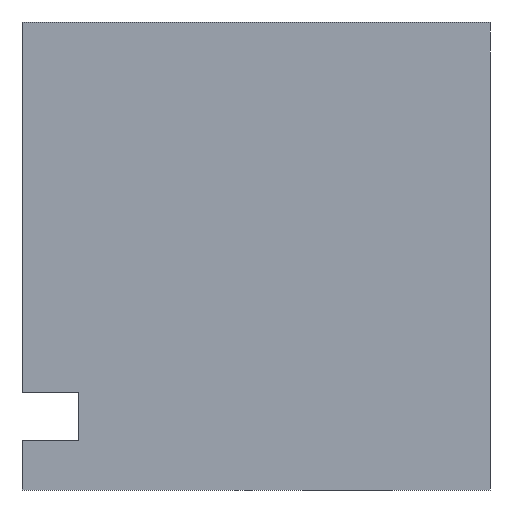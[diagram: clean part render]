
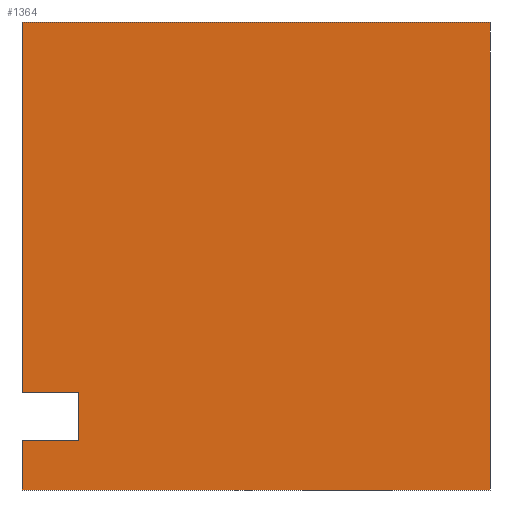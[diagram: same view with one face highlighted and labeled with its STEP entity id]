
A CAD part, front view. The second image highlights one B-rep face of the part: STEP entity #1364.
In plain terms, the highlighted planar face has unit normal (0, -1, 0).
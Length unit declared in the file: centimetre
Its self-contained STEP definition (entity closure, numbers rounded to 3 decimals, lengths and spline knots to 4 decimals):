
#35 = ORIENTED_EDGE ( 'NONE', *, *, #1386, .T. ) ;
#77 = PLANE ( 'NONE',  #588 ) ;
#97 = VECTOR ( 'NONE', #658, 100. ) ;
#109 = EDGE_CURVE ( 'NONE', #1455, #873, #1166, .T. ) ;
#110 = CARTESIAN_POINT ( 'NONE',  ( 1000., 0., 1000. ) ) ;
#143 = EDGE_CURVE ( 'NONE', #1220, #873, #1301, .T. ) ;
#174 = VECTOR ( 'NONE', #710, 100. ) ;
#190 = EDGE_CURVE ( 'NONE', #470, #267, #226, .T. ) ;
#226 = LINE ( 'NONE', #232, #174 ) ;
#232 = CARTESIAN_POINT ( 'NONE',  ( 0., 0., 105.237 ) ) ;
#267 = VERTEX_POINT ( 'NONE', #1204 ) ;
#282 = VECTOR ( 'NONE', #737, 100. ) ;
#287 = CARTESIAN_POINT ( 'NONE',  ( 120.9123, 0., 105.237 ) ) ;
#293 = DIRECTION ( 'NONE',  ( 0., 0., -1. ) ) ;
#328 = ORIENTED_EDGE ( 'NONE', *, *, #109, .F. ) ;
#411 = CARTESIAN_POINT ( 'NONE',  ( 120.9123, 0., 208.0951 ) ) ;
#465 = CARTESIAN_POINT ( 'NONE',  ( 1000., 0., 1000. ) ) ;
#470 = VERTEX_POINT ( 'NONE', #1028 ) ;
#484 = EDGE_LOOP ( 'NONE', ( #35, #603, #1521, #1225, #328, #1340, #1138, #485 ) ) ;
#485 = ORIENTED_EDGE ( 'NONE', *, *, #487, .T. ) ;
#487 = EDGE_CURVE ( 'NONE', #789, #1323, #527, .T. ) ;
#492 = VERTEX_POINT ( 'NONE', #1244 ) ;
#510 = EDGE_CURVE ( 'NONE', #492, #1455, #1001, .T. ) ;
#527 = LINE ( 'NONE', #1119, #1361 ) ;
#549 = DIRECTION ( 'NONE',  ( 0., 1., 0. ) ) ;
#557 = DIRECTION ( 'NONE',  ( 1., 0., 0. ) ) ;
#569 = VECTOR ( 'NONE', #557, 100. ) ;
#588 = AXIS2_PLACEMENT_3D ( 'NONE', #1013, #549, #764 ) ;
#603 = ORIENTED_EDGE ( 'NONE', *, *, #190, .T. ) ;
#658 = DIRECTION ( 'NONE',  ( 1., 0., 0. ) ) ;
#660 = LINE ( 'NONE', #287, #1271 ) ;
#678 = CARTESIAN_POINT ( 'NONE',  ( 0., 0., 1000. ) ) ;
#708 = EDGE_CURVE ( 'NONE', #267, #1220, #1346, .T. ) ;
#710 = DIRECTION ( 'NONE',  ( -1., 0., 0. ) ) ;
#737 = DIRECTION ( 'NONE',  ( 0., 0., -1. ) ) ;
#764 = DIRECTION ( 'NONE',  ( 0., 0., 1. ) ) ;
#765 = CARTESIAN_POINT ( 'NONE',  ( 0., 0., 208.0951 ) ) ;
#775 = DIRECTION ( 'NONE',  ( 1., 0., 0. ) ) ;
#787 = DIRECTION ( 'NONE',  ( 0., 0., -1. ) ) ;
#789 = VERTEX_POINT ( 'NONE', #765 ) ;
#873 = VERTEX_POINT ( 'NONE', #1509 ) ;
#921 = FACE_OUTER_BOUND ( 'NONE', #484, .T. ) ;
#948 = EDGE_CURVE ( 'NONE', #492, #789, #1038, .T. ) ;
#1001 = LINE ( 'NONE', #1259, #97 ) ;
#1002 = CARTESIAN_POINT ( 'NONE',  ( 0., 0., 0. ) ) ;
#1013 = CARTESIAN_POINT ( 'NONE',  ( 0., 0., 1000. ) ) ;
#1028 = CARTESIAN_POINT ( 'NONE',  ( 120.9123, 0., 105.237 ) ) ;
#1038 = LINE ( 'NONE', #678, #1068 ) ;
#1068 = VECTOR ( 'NONE', #787, 100. ) ;
#1119 = CARTESIAN_POINT ( 'NONE',  ( 0., 0., 208.0951 ) ) ;
#1131 = CARTESIAN_POINT ( 'NONE',  ( 0., 0., 1000. ) ) ;
#1138 = ORIENTED_EDGE ( 'NONE', *, *, #948, .T. ) ;
#1166 = LINE ( 'NONE', #110, #1337 ) ;
#1204 = CARTESIAN_POINT ( 'NONE',  ( 0., 0., 105.237 ) ) ;
#1220 = VERTEX_POINT ( 'NONE', #1002 ) ;
#1225 = ORIENTED_EDGE ( 'NONE', *, *, #143, .T. ) ;
#1244 = CARTESIAN_POINT ( 'NONE',  ( 0., 0., 1000. ) ) ;
#1259 = CARTESIAN_POINT ( 'NONE',  ( 0., 0., 1000. ) ) ;
#1271 = VECTOR ( 'NONE', #293, 100. ) ;
#1301 = LINE ( 'NONE', #1418, #569 ) ;
#1323 = VERTEX_POINT ( 'NONE', #411 ) ;
#1337 = VECTOR ( 'NONE', #1411, 100. ) ;
#1340 = ORIENTED_EDGE ( 'NONE', *, *, #510, .F. ) ;
#1346 = LINE ( 'NONE', #1131, #282 ) ;
#1361 = VECTOR ( 'NONE', #775, 100. ) ;
#1364 = ADVANCED_FACE ( 'NONE', ( #921 ), #77, .F. ) ;
#1386 = EDGE_CURVE ( 'NONE', #1323, #470, #660, .T. ) ;
#1411 = DIRECTION ( 'NONE',  ( 0., 0., -1. ) ) ;
#1418 = CARTESIAN_POINT ( 'NONE',  ( 0., 0., 0. ) ) ;
#1455 = VERTEX_POINT ( 'NONE', #465 ) ;
#1509 = CARTESIAN_POINT ( 'NONE',  ( 1000., 0., 0. ) ) ;
#1521 = ORIENTED_EDGE ( 'NONE', *, *, #708, .T. ) ;
